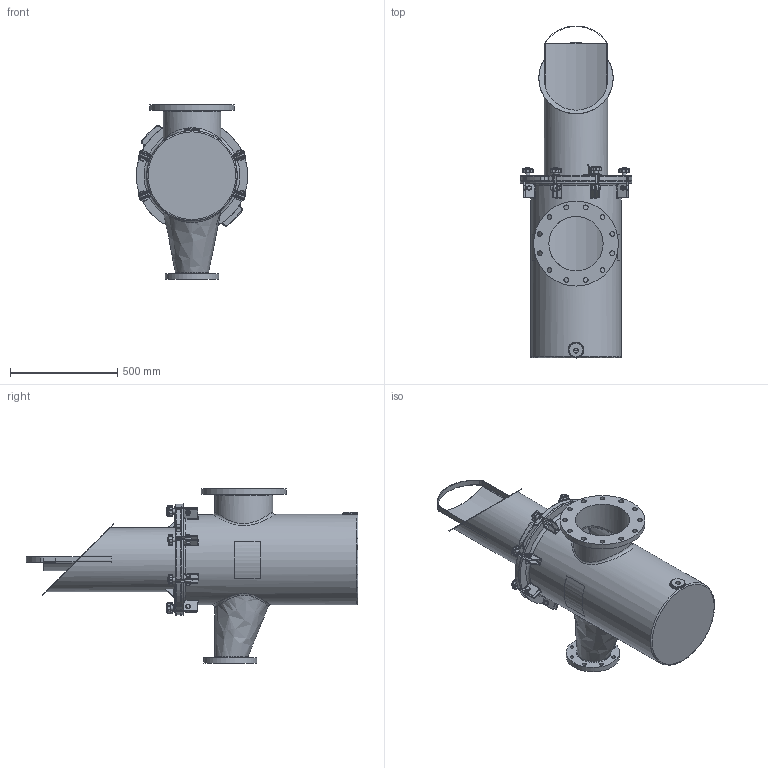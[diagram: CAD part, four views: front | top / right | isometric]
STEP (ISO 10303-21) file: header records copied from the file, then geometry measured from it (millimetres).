
FILE_DESCRIPTION(/* description */ ('250MM X 125MM FIBERGLASS STRAINER BODY'),/* implementation_level */ '2;1');
FILE_NAME(/* name */ 'C:\Users\r.kommineni.ext\Desktop\NB\CAD\Workspace\FG Reducing Strainer\Guardian FG Reducing H&L Strainer (Metric)_CLEARANCE VOLUME\STRAINER H&L 250MM X 125MM.stp',/* time_stamp */ '2017-06-09T13:33:40-04:00',/* author */ ('r.kommineni.ext'),/* organization */ (''),/* preprocessor_version */ 'ST-DEVELOPER v16.1',/* originating_system */ 'Autodesk Inventor 2016',/* authorisation */ '');
FILE_SCHEMA (('CONFIG_CONTROL_DESIGN'));
Length unit declared in the file: inch
Products named in the file (25): NBFGBODY10X05MM; 150NBCVR20R2; 150NBGSK16R1; Perforated Basket 16in; Bride (Ring) 16in; Baffle 16in; Handle 16in; Bottom Strainer 16in; BRACESTRCVR16_Welds; BRACE (BASE) FOR 16 BODY; BRACE (PROJ) FOR 16 BODY; Bumper; BRACESTRCVR16; Nut- 1_2  UNC; Bolt-1_2 x 1 1_2  UNC; EyeBolt; Washer; Knob M10; Securing Assembly For FG  with Brace; Securing Assembly For FG without Brace; Label for 16.625 inch (Right); Label for 16.625 inch (Left); NBBSK10T316_clearance; NBBSK10T316_clearance_1; STRAINER H&L 250MM X 125MM
Assembly tree (40 placements, depth 3):
  STRAINER H&L 250MM X 125MM
    NBFGBODY10X05MM
    150NBCVR20R2
    150NBGSK16R1
    NBBSK10T316_clearance_1
      Perforated Basket 16in
      Bride (Ring) 16in
      Baffle 16in
      Handle 16in
      Bottom Strainer 16in
      NBBSK10T316_clearance
    BRACESTRCVR16
      BRACESTRCVR16_Welds
      BRACE (BASE) FOR 16 BODY
      BRACE (PROJ) FOR 16 BODY
      Bumper  x6
    Securing Assembly For FG  with Brace  x2
      Nut- 1_2  UNC
      Bolt-1_2 x 1 1_2  UNC
      EyeBolt
      Washer
      Knob M10
    Securing Assembly For FG without Brace  x6
      Nut- 1_2  UNC
      Bolt-1_2 x 1 1_2  UNC
      EyeBolt
      Washer
      Knob M10
    Label for 16.625 inch (Right)
    Label for 16.625 inch (Left)
Bounding box: 520.7 x 1550.39 x 812.8 mm (x, y, z)
Volume: 22366160.6 mm3; surface area: 6508270.2 mm2
Topology: 66 solids, 69 shells, 1832 faces, 4192 edges, 2483 vertices
Faces by surface type: cylinder 671, plane 514, cone 184, torus 166, sphere 158, bspline 139
Full cylindrical faces by diameter (mm): 3.175 x11, 6.35 x2, 8.382 x8, 9.525 x16, 10.592 x8, 12.7 x8, 15.875 x16, 17.78 x8, 19 x16, 19.05 x8, 22.098 x12, 22.809 x1, 31.75 x8, 68.263 x1, 248.92 x1, 254 x1, 269.875 x1, 295.275 x2, 298.45 x2, 300.99 x1, 396.24 x1, 406.4 x2, 409.575 x1, 415.925 x1, 422.275 x1, 457.2 x1, 463.55 x1
Entity records: 35613 total; most frequent: CARTESIAN_POINT 12110, DIRECTION 4874, ORIENTED_EDGE 4405, EDGE_CURVE 2227, AXIS2_PLACEMENT_3D 1989, VERTEX_POINT 1399, EDGE_LOOP 1197, ADVANCED_FACE 982
